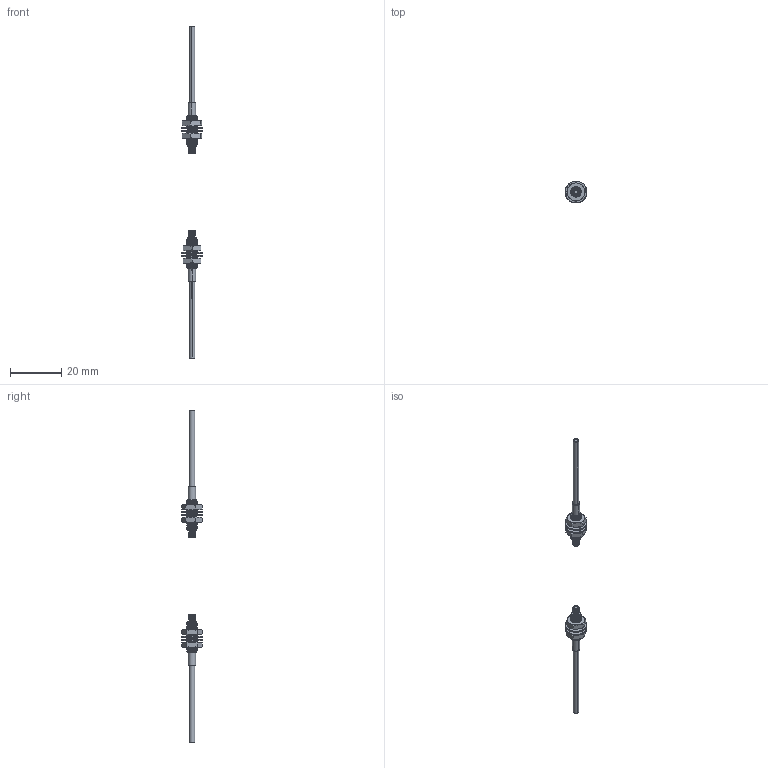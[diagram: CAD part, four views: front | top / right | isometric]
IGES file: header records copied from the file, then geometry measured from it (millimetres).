
Start section: SolidWorks IGES file using analytic representation for surfaces
Bounding box: 8.5 x 8.5 x 130 mm (x, y, z)
Surface area: 2061.2 mm2 (no closed solid volume)
Topology: 0 solids, 0 shells, 426 faces, 6770 edges, 6770 vertices
Faces by surface type: revolution 276, bspline 150
